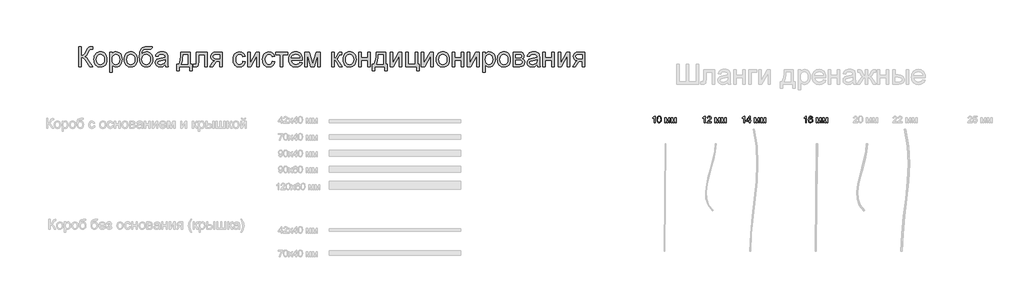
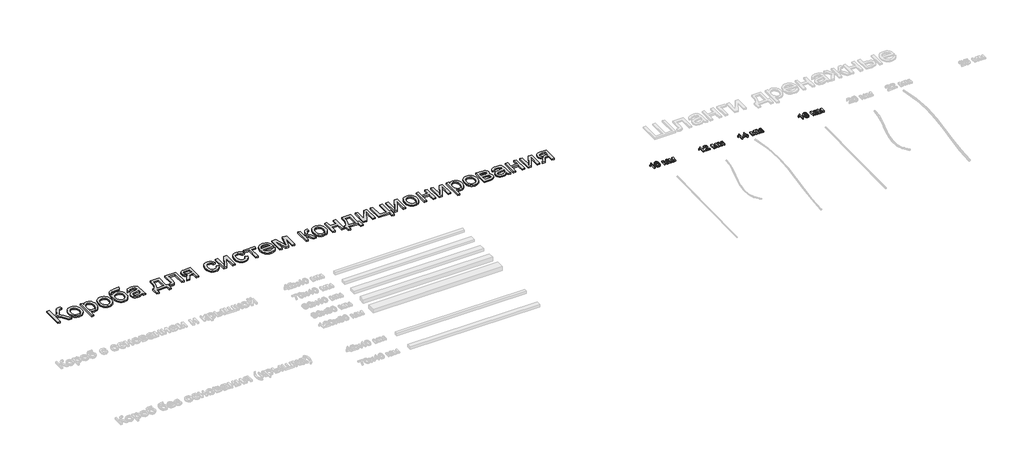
# One storey, part 9 of 21: 5 proxies.
"""IFC4 building model written with IfcOpenShell, lengths in millimetres."""

from ifc_helpers import new_model, si_unit, origin, origin_with_axes, place, context, project, spatial, polyline, outline, extrude, element, save

model = new_model("IFC4")

# Units and contexts
model_context = context("Model", 3, world=origin())
ifc_project = project(units=[si_unit("LENGTHUNIT", "METRE", prefix="MILLI")], contexts=[model_context])

# Site, building, storey
site = spatial("IfcSite", under=ifc_project)
building = spatial("IfcBuilding", under=site)
storey = spatial("IfcBuildingStorey", under=building, Name="Этаж 01", Elevation=0.0)

# Proxies
placement = place(None, origin())
element("IfcBuildingElementProxy", 1, Name="300 мм Arial", ObjectType="300 мм Arial", at=placement, inside=storey, context=model_context, shape_type="SweptSolid", body=[
    extrude(outline(polyline([(-2310.4947168, -1276.5124367), (-2272.8236005, -1276.5124367), (-2272.8236005, -1408.3613438), (-2247.3201812, -1405.8689433), (-2230.701112, -1398.3917417), (-2217.2642222, -1380.7977853), (-2201.3073406, -1347.9551202), (-2180.5220079, -1305.8326317), (-2170.4972235, -1294.4190928), (-2156.9775602, -1284.9737226), (-2140.9287082, -1278.6277582), (-2123.3163577, -1276.5124367), (-2098.5946876, -1276.9538951), (-2098.5946876, -1314.6250114), (-2106.9088207, -1314.4042822), (-2115.2229538, -1314.183553), (-2132.4766193, -1316.4460273), (-2144.6535134, -1323.2334501), (-2155.1381502, -1337.4888774), (-2167.0207387, -1362.0082124), (-2181.5980627, -1392.542418), (-2193.6921833, -1409.2442606), (-2219.7014404, -1424.8424572), (-2205.1103208, -1431.0504658), (-2190.6203687, -1441.8753936), (-2161.9439671, -1477.3760061), (-2098.5946876, -1577.8813672), (-2142.2990686, -1577.8813672), (-2195.8626871, -1492.9742027), (-2216.5468523, -1465.741738), (-2233.5705916, -1448.6444223), (-2250.980607, -1439.6221163), (-2272.8236005, -1436.614681), (-2272.8236005, -1577.8813672), (-2310.4947168, -1577.8813672), (-2310.4947168, -1276.5124367)])), origin_with_axes(), (0.0, 0.0, 1.0), 20.0),
    extrude(outline(polyline([(-2079.7591294, -1467.222463), (-2077.7219829, -1438.5598571), (-2071.6105432, -1413.8611796), (-2061.4248105, -1393.1264307), (-2047.1647847, -1376.3556102), (-2032.8081898, -1365.6364486), (-2016.9616728, -1357.9799046), (-1999.6252338, -1353.3859781), (-1980.7988727, -1351.8546693), (-1960.0158393, -1353.7193712), (-1941.2239671, -1359.3134768), (-1924.4232562, -1368.6369861), (-1909.6137067, -1381.6898991), (-1897.5264838, -1398.0307575), (-1888.8927533, -1417.2181028), (-1883.7125149, -1439.2519351), (-1881.9857688, -1464.1322543), (-1885.0391894, -1502.1896467), (-1894.1994511, -1531.1603538), (-1909.1998394, -1552.8561945), (-1929.77364, -1569.0889875), (-1954.2102015, -1579.2149394), (-1980.7988727, -1582.5902567), (-2001.8854088, -1580.7324526), (-2020.8520249, -1575.1590404), (-2037.6987211, -1565.87002), (-2052.4254972, -1552.8653915), (-2064.3839613, -1536.365884), (-2072.9257214, -1516.5922268), (-2078.0507774, -1493.5444198), (-2079.7591294, -1467.222463)]), holes=[polyline([(-2042.0880131, -1467.1488866), (-2037.7286115, -1501.2423505), (-2024.6504065, -1525.5317593), (-2004.9687198, -1540.0722951), (-1980.7988727, -1544.9191404), (-1956.7393902, -1540.044704), (-1937.0944917, -1525.4213947), (-1924.0162868, -1500.8100892), (-1919.6568851, -1465.9716642), (-1924.0438779, -1432.8714817), (-1937.2048563, -1408.9131668), (-1956.877346, -1394.3726309), (-1980.7988727, -1389.5257856), (-2004.9687198, -1394.3542368), (-2024.6504065, -1408.8395904), (-2037.7286115, -1433.0738168), (-2042.0880131, -1467.1488866)])]), origin_with_axes(), (0.0, 0.0, 1.0), 20.0),
    extrude(outline(polyline([(-1839.605763, -1662.6413789), (-1839.605763, -1356.5635589), (-1801.9346467, -1356.5635589), (-1801.9346467, -1393.4989112), (-1789.647388, -1375.2795554), (-1775.8886014, -1362.2657298), (-1759.8489464, -1354.4574345), (-1740.7190827, -1351.8546693), (-1715.2432545, -1355.4967011), (-1692.9679997, -1366.4227963), (-1674.8314173, -1383.9707675), (-1661.7716065, -1407.478427), (-1653.8805377, -1435.2351235), (-1651.2501814, -1465.5302058), (-1654.2208286, -1497.7474716), (-1663.1327699, -1526.5618288), (-1677.7008969, -1550.5109467), (-1697.640101, -1568.1324943), (-1720.862652, -1578.9758161), (-1745.2808194, -1582.5902567), (-1762.5988643, -1580.1714326), (-1778.0591052, -1572.9149602), (-1791.29366, -1561.9612738), (-1801.9346467, -1548.4508076), (-1801.9346467, -1662.6413789), (-1839.605763, -1662.6413789)]), holes=[polyline([(-1801.9346467, -1468.9882966), (-1797.8603536, -1502.7598638), (-1785.6374743, -1526.3778878), (-1767.6020595, -1540.2838273), (-1746.0901598, -1544.9191404), (-1724.2287722, -1540.1182804), (-1705.7335049, -1525.7157003), (-1693.1243495, -1501.2331535), (-1688.9212977, -1466.1923934), (-1693.023182, -1432.6047673), (-1705.3288347, -1408.6556494), (-1723.3366584, -1394.3082516), (-1744.5450554, -1389.5257856), (-1765.8362259, -1394.6117542), (-1784.5338283, -1409.86966), (-1797.5844421, -1434.8212563), (-1801.9346467, -1468.9882966)])]), origin_with_axes(), (0.0, 0.0, 1.0), 20.0),
    extrude(outline(polyline([(-1618.2879547, -1467.222463), (-1616.2508081, -1438.5598571), (-1610.1393685, -1413.8611796), (-1599.9536357, -1393.1264307), (-1585.6936099, -1376.3556102), (-1571.337015, -1365.6364486), (-1555.4904981, -1357.9799046), (-1538.1540591, -1353.3859781), (-1519.327698, -1351.8546693), (-1498.5446645, -1353.7193712), (-1479.7527923, -1359.3134768), (-1462.9520815, -1368.6369861), (-1448.1425319, -1381.6898991), (-1436.0553091, -1398.0307575), (-1427.4215785, -1417.2181028), (-1422.2413402, -1439.2519351), (-1420.5145941, -1464.1322543), (-1423.5680146, -1502.1896467), (-1432.7282763, -1531.1603538), (-1447.7286647, -1552.8561945), (-1468.3024652, -1569.0889875), (-1492.7390268, -1579.2149394), (-1519.327698, -1582.5902567), (-1540.4142341, -1580.7324526), (-1559.3808502, -1575.1590404), (-1576.2275463, -1565.87002), (-1590.9543224, -1552.8653915), (-1602.9127865, -1536.365884), (-1611.4545466, -1516.5922268), (-1616.5796027, -1493.5444198), (-1618.2879547, -1467.222463)]), holes=[polyline([(-1580.6168384, -1467.1488866), (-1576.2574367, -1501.2423505), (-1563.1792318, -1525.5317593), (-1543.4975451, -1540.0722951), (-1519.327698, -1544.9191404), (-1495.2682155, -1540.044704), (-1475.6233169, -1525.4213947), (-1462.545112, -1500.8100892), (-1458.1857104, -1465.9716642), (-1462.5727032, -1432.8714817), (-1475.7336815, -1408.9131668), (-1495.4061712, -1394.3726309), (-1519.327698, -1389.5257856), (-1543.4975451, -1394.3542368), (-1563.1792318, -1408.8395904), (-1576.2574367, -1433.0738168), (-1580.6168384, -1467.1488866)])]), origin_with_axes(), (0.0, 0.0, 1.0), 20.0),
    extrude(outline(polyline([(-1222.7412335, -1271.8035472), (-1189.7790067, -1271.8035472), (-1193.347462, -1289.7102033), (-1199.4910914, -1301.1973186), (-1208.0075596, -1307.9939385), (-1218.6945315, -1311.8291083), (-1264.8269337, -1314.183553), (-1303.1326465, -1316.3540568), (-1326.9622027, -1322.8655681), (-1341.21763, -1334.1595454), (-1350.800956, -1350.677447), (-1356.4387476, -1372.5480316), (-1358.8575717, -1399.9000579), (-1343.7100305, -1378.8572078), (-1326.2264387, -1363.8476224), (-1306.3884021, -1354.8529076), (-1284.1775267, -1351.8546693), (-1263.6543098, -1353.7607579), (-1244.9797001, -1359.4790237), (-1228.1536973, -1369.0094666), (-1213.1763016, -1382.3520867), (-1200.8798459, -1398.945864), (-1192.0966633, -1418.2297783), (-1186.8267537, -1440.2038297), (-1185.0701172, -1464.8680183), (-1188.5557991, -1500.8284833), (-1199.0128448, -1529.6888258), (-1214.2523564, -1552.1204305), (-1232.0854361, -1568.7946819), (-1254.6733906, -1579.141363), (-1284.1775267, -1582.5902567), (-1318.1790201, -1578.1480816), (-1343.6640453, -1564.8215563), (-1362.41683, -1544.5696525), (-1376.2216018, -1519.3513417), (-1384.7196759, -1481.3767228), (-1387.5523673, -1422.8558944), (-1385.7658404, -1383.1913175), (-1380.4062595, -1350.5762794), (-1371.4736248, -1325.01078), (-1358.9679363, -1306.4948193), (-1342.7558366, -1293.3775269), (-1322.7039686, -1284.0080324), (-1298.8123323, -1278.3863356), (-1271.0809276, -1276.5124367), (-1229.1423802, -1275.6663081), (-1222.7412335, -1271.8035472)]), holes=[polyline([(-1222.7412335, -1463.6907959), (-1226.8247236, -1434.0487041), (-1239.075194, -1410.3111184), (-1258.7568808, -1394.7221188), (-1285.1340198, -1389.5257856), (-1312.633199, -1395.0164244), (-1323.7202426, -1401.8797229), (-1333.0322556, -1411.4883408), (-1345.6690021, -1437.1389129), (-1349.881251, -1470.165519), (-1345.2275438, -1502.1804496), (-1331.266422, -1525.6789121), (-1310.4810893, -1540.1090833), (-1285.354749, -1544.9191404), (-1260.0996501, -1539.3549252), (-1240.1052636, -1522.6622797), (-1227.082241, -1496.7909784), (-1222.7412335, -1463.6907959)])]), origin_with_axes(), (0.0, 0.0, 1.0), 20.0),
    extrude(outline(polyline([(-996.7145356, -1549.6280299), (-1014.7131622, -1565.0606796), (-1033.2452177, -1575.1590404), (-1052.7337664, -1580.7324526), (-1073.6018726, -1582.5902567), (-1105.0833744, -1578.1204905), (-1128.3059253, -1564.7111917), (-1142.625732, -1544.3489233), (-1147.3990008, -1519.0202479), (-1145.5963791, -1503.4036573), (-1140.1885137, -1489.2218063), (-1131.8467895, -1477.0817005), (-1121.242591, -1467.590345), (-1094.8654519, -1455.22951), (-1062.2711072, -1449.5641273), (-1023.7538623, -1443.6044389), (-996.9352648, -1436.614681), (-996.7145356, -1428.2269715), (-999.3081037, -1411.4147644), (-1007.0888079, -1400.4150927), (-1024.4896263, -1392.2481124), (-1048.7330497, -1389.5257856), (-1071.1738514, -1391.3376045), (-1086.8456244, -1396.7730609), (-1097.5325964, -1406.8254365), (-1105.018995, -1422.4880124), (-1142.6901113, -1417.7791229), (-1136.1510088, -1397.1777311), (-1126.3929389, -1380.9909234), (-1112.5053936, -1368.6116942), (-1093.577865, -1359.4330384), (-1070.4288904, -1353.7492616), (-1043.8770074, -1351.8546693), (-1018.4103763, -1353.5285324), (-998.2228518, -1358.5501216), (-983.0017343, -1366.1008996), (-972.4343239, -1375.3623288), (-965.4261719, -1386.8126559), (-960.8828293, -1400.9301275), (-959.0434193, -1433.8923543), (-959.0434193, -1480.7605204), (-957.1304329, -1546.2067274), (-949.6256402, -1577.8813672), (-987.2967565, -1577.8813672), (-996.7145356, -1549.6280299)]), holes=[polyline([(-996.7145356, -1474.2857973), (-1057.4886412, -1485.837292), (-1089.899045, -1491.9441331), (-1104.5775366, -1501.876947), (-1109.7278845, -1516.3714976), (-1106.9227843, -1527.5735043), (-1098.5074837, -1536.7521601), (-1084.6659236, -1542.8773953), (-1065.5820451, -1544.9191404), (-1045.3485354, -1542.6658632), (-1027.4694704, -1535.9060315), (-1012.9749198, -1525.9456265), (-1002.8949531, -1514.0906292), (-998.4251869, -1501.876947), (-996.9352648, -1484.9543752), (-996.7145356, -1474.2857973)])]), origin_with_axes(), (0.0, 0.0, 1.0), 20.0),
    extrude(outline(polyline([(-756.5611692, -1356.5635589), (-615.294483, -1356.5635589), (-615.294483, -1540.2102509), (-587.0411458, -1540.2102509), (-587.0411458, -1639.0969312), (-624.7122621, -1639.0969312), (-624.7122621, -1577.8813672), (-780.1056169, -1577.8813672), (-780.1056169, -1639.0969312), (-817.7767332, -1639.0969312), (-817.7767332, -1540.2102509), (-794.2322855, -1540.2102509), (-777.1165757, -1509.2805721), (-765.1328197, -1468.3628972), (-758.2810175, -1417.4572261), (-756.5611692, -1356.5635589)]), holes=[polyline([(-723.5989424, -1394.2346752), (-726.6891512, -1440.3578803), (-732.4281103, -1480.0615447), (-740.8158198, -1513.3456682), (-751.8522796, -1540.2102509), (-652.9655993, -1540.2102509), (-652.9655993, -1394.2346752), (-723.5989424, -1394.2346752)])]), origin_with_axes(), (0.0, 0.0, 1.0), 20.0),
    extrude(outline(polyline([(-525.8255818, -1356.5635589), (-356.3055584, -1356.5635589), (-356.3055584, -1577.660638), (-393.9766747, -1577.660638), (-393.9766747, -1394.2346752), (-488.1544655, -1394.2346752), (-488.1544655, -1499.8168078), (-490.6928513, -1548.524384), (-495.447726, -1559.5516468), (-504.6355789, -1569.0889875), (-518.5783065, -1575.6832723), (-537.5978056, -1577.8813672), (-568.2055876, -1575.9683808), (-568.2055876, -1540.2102509), (-551.3565923, -1540.2102509), (-534.3236559, -1537.8925943), (-527.517839, -1530.5349544), (-525.8255818, -1497.6830922), (-525.8255818, -1356.5635589)])), origin_with_axes(), (0.0, 0.0, 1.0), 20.0),
    extrude(outline(polyline([(-130.2788606, -1356.5635589), (-130.2788606, -1577.8813672), (-167.9499769, -1577.8813672), (-167.9499769, -1493.1213555), (-188.4777922, -1493.1213555), (-216.4368239, -1497.9038214), (-227.6020424, -1508.333276), (-242.7035983, -1530.0567078), (-272.7227691, -1577.8813672), (-316.2799973, -1577.8813672), (-278.4617282, -1517.4015672), (-261.7598857, -1495.6965295), (-246.3824183, -1486.0580212), (-272.1341579, -1478.1669524), (-290.2339521, -1463.1757611), (-300.9393181, -1443.2365569), (-304.5077735, -1420.5014496), (-299.6333371, -1394.7129218), (-285.0100278, -1374.295471), (-261.1528804, -1360.9965369), (-228.5769297, -1356.5635589), (-130.2788606, -1356.5635589)]), holes=[polyline([(-167.9499769, -1394.2346752), (-217.6140462, -1394.2346752), (-243.2646184, -1396.414376), (-257.8235483, -1402.9534785), (-264.58338, -1412.4172428), (-266.8366572, -1423.3709292), (-263.5165222, -1437.7275241), (-253.5561172, -1447.6879291), (-235.1528204, -1453.5096617), (-206.50401, -1455.4502392), (-167.9499769, -1455.4502392), (-167.9499769, -1394.2346752)])]), origin_with_axes(), (0.0, 0.0, 1.0), 20.0),
    extrude(outline(polyline([(185.2167385, -1497.830245), (222.8878548, -1502.5391346), (212.3848238, -1536.0439873), (192.6479548, -1561.3634656), (165.5350517, -1577.2835589), (132.9039188, -1582.5902567), (111.7759959, -1580.7393504), (92.8323724, -1575.1866316), (76.0730483, -1565.9321001), (61.4980235, -1552.9757561), (49.7005078, -1536.5613213), (41.2737108, -1516.9325176), (36.2176326, -1494.089345), (34.5322733, -1468.0318034), (37.4109499, -1434.5085566), (46.0469797, -1405.455076), (60.5783185, -1381.9934018), (81.142922, -1365.245574), (105.7450305, -1355.2023955), (132.388884, -1351.8546693), (164.2198736, -1356.4531943), (189.6681106, -1370.2487691), (207.9242546, -1392.5056298), (218.1789652, -1422.4880124), (180.5078489, -1427.1969019), (173.6744409, -1410.7617738), (163.0334542, -1398.9803529), (149.1735, -1391.8894275), (132.6831896, -1389.5257856), (108.3385985, -1394.1794929), (89.0155967, -1408.1406146), (76.4064414, -1432.1633089), (72.2033896, -1467.0017338), (76.3144709, -1502.3092083), (88.6477147, -1526.414676), (107.6212286, -1540.2930243), (131.65312, -1544.9191404), (151.1600628, -1542.0312667), (167.1537325, -1533.3676458), (178.7880006, -1518.7075482), (185.2167385, -1497.830245)])), origin_with_axes(), (0.0, 0.0, 1.0), 20.0),
    extrude(outline(polyline([(255.8500816, -1356.5635589), (293.5211979, -1356.5635589), (293.5211979, -1525.3478183), (386.0803078, -1356.5635589), (434.787884, -1356.5635589), (434.787884, -1577.8813672), (397.1167677, -1577.8813672), (397.1167677, -1410.1271774), (305.1462689, -1577.8813672), (255.8500816, -1577.8813672), (255.8500816, -1356.5635589)])), origin_with_axes(), (0.0, 0.0, 1.0), 20.0),
    extrude(outline(polyline([(632.5612446, -1497.830245), (670.2323609, -1502.5391346), (659.72933, -1536.0439873), (639.9924609, -1561.3634656), (612.8795579, -1577.2835589), (580.2484249, -1582.5902567), (559.1205021, -1580.7393504), (540.1768786, -1575.1866316), (523.4175544, -1565.9321001), (508.8425296, -1552.9757561), (497.0450139, -1536.5613213), (488.618217, -1516.9325176), (483.5621388, -1494.089345), (481.8767794, -1468.0318034), (484.755456, -1434.5085566), (493.3914858, -1405.455076), (507.9228247, -1381.9934018), (528.4874282, -1365.245574), (553.0895366, -1355.2023955), (579.7333901, -1351.8546693), (611.5643797, -1356.4531943), (637.0126168, -1370.2487691), (655.2687608, -1392.5056298), (665.5234714, -1422.4880124), (627.8523551, -1427.1969019), (621.018947, -1410.7617738), (610.3779603, -1398.9803529), (596.5180061, -1391.8894275), (580.0276957, -1389.5257856), (555.6831047, -1394.1794929), (536.3601029, -1408.1406146), (523.7509475, -1432.1633089), (519.5478957, -1467.0017338), (523.658977, -1502.3092083), (535.9922209, -1526.414676), (554.9657348, -1540.2930243), (578.9976261, -1544.9191404), (598.5045689, -1542.0312667), (614.4982387, -1533.3676458), (626.1325068, -1518.7075482), (632.5612446, -1497.830245)])), origin_with_axes(), (0.0, 0.0, 1.0), 20.0),
    extrude(outline(polyline([(684.3590295, -1356.5635589), (863.296832, -1356.5635589), (863.296832, -1394.2346752), (792.6634889, -1394.2346752), (792.6634889, -1577.8813672), (754.9923726, -1577.8813672), (754.9923726, -1394.2346752), (684.3590295, -1394.2346752), (684.3590295, -1356.5635589)])), origin_with_axes(), (0.0, 0.0, 1.0), 20.0),
    extrude(outline(polyline([(1051.2109551, -1511.9569136), (1088.1463074, -1516.6658032), (1074.8381763, -1544.4960761), (1053.6021881, -1565.2998029), (1024.9165895, -1578.2676433), (989.2596271, -1582.5902567), (965.8853249, -1580.7255548), (945.0586054, -1575.1314493), (926.7794688, -1565.8079399), (911.047915, -1552.7550269), (898.3973729, -1536.3359936), (889.3612713, -1516.9141235), (883.9396104, -1494.4894167), (882.1323901, -1469.061873), (883.9580045, -1442.7721059), (889.4348477, -1419.6001387), (898.5629198, -1399.5459715), (911.3422206, -1382.6096041), (927.0323877, -1369.1543202), (944.8930585, -1359.543403), (964.9242332, -1353.7768528), (987.1259116, -1351.8546693), (1008.6125193, -1353.7722542), (1028.0435865, -1359.5250089), (1045.419113, -1369.1129334), (1060.7390988, -1382.5360277), (1073.2447874, -1399.4356069), (1082.1774221, -1419.452986), (1087.5370029, -1442.5881649), (1089.3235298, -1468.8411438), (1089.1028006, -1478.9946869), (919.8035065, -1478.9946869), (926.3242148, -1507.1928418), (941.471756, -1527.9229922), (963.3331435, -1540.6701034), (989.9953911, -1544.9191404), (1010.0449599, -1542.9509717), (1026.9307434, -1537.0464657), (1040.6527419, -1526.8377403), (1051.2109551, -1511.9569136)]), holes=[polyline([(919.8035065, -1441.3235706), (1051.6524135, -1441.3235706), (1046.5572479, -1421.4211546), (1036.5692517, -1407.1841214), (1014.6066966, -1393.9403696), (986.9787588, -1389.5257856), (961.5857041, -1393.0482557), (940.5888392, -1403.6156661), (925.993121, -1420.0875824), (919.8035065, -1441.3235706)])]), origin_with_axes(), (0.0, 0.0, 1.0), 20.0),
    extrude(outline(polyline([(1126.9946461, -1356.5635589), (1191.8154537, -1356.5635589), (1241.7738286, -1533.7355278), (1295.6317527, -1356.5635589), (1357.7302335, -1356.5635589), (1357.7302335, -1577.8813672), (1320.0591172, -1577.8813672), (1320.0591172, -1399.6793287), (1265.9068875, -1577.8813672), (1216.4635474, -1577.8813672), (1164.6657624, -1391.1444664), (1164.6657624, -1577.8813672), (1126.9946461, -1577.8813672), (1126.9946461, -1356.5635589)])), origin_with_axes(), (0.0, 0.0, 1.0), 20.0),
    extrude(outline(polyline([(1531.9591464, -1356.5635589), (1569.6302627, -1356.5635589), (1569.6302627, -1450.7413496), (1584.9525478, -1449.0490925), (1594.8669676, -1443.9723209), (1603.6409532, -1430.7285691), (1615.5419357, -1404.535371), (1632.7220249, -1370.5062865), (1647.8787631, -1359.4330384), (1675.4331245, -1356.5635589), (1682.6436116, -1356.5635589), (1682.6436116, -1394.4554044), (1672.4900686, -1394.2346752), (1654.0959688, -1398.2078007), (1641.1465226, -1423.0030472), (1625.9529962, -1449.8216447), (1604.6526287, -1462.9550319), (1616.5903994, -1468.2571311), (1628.4178056, -1477.6151294), (1651.7415241, -1508.4988229), (1692.0613907, -1577.8813672), (1649.2399265, -1577.8813672), (1609.7294002, -1509.9703509), (1589.8637725, -1481.238767), (1580.5747521, -1476.0240398), (1569.6302627, -1474.2857973), (1569.6302627, -1577.8813672), (1531.9591464, -1577.8813672), (1531.9591464, -1356.5635589)])), origin_with_axes(), (0.0, 0.0, 1.0), 20.0),
    extrude(outline(polyline([(1706.1880593, -1467.222463), (1708.2252059, -1438.5598571), (1714.3366455, -1413.8611796), (1724.5223783, -1393.1264307), (1738.7824041, -1376.3556102), (1753.138999, -1365.6364486), (1768.9855159, -1357.9799046), (1786.3219549, -1353.3859781), (1805.148316, -1351.8546693), (1825.9313495, -1353.7193712), (1844.7232217, -1359.3134768), (1861.5239325, -1368.6369861), (1876.3334821, -1381.6898991), (1888.4207049, -1398.0307575), (1897.0544355, -1417.2181028), (1902.2346738, -1439.2519351), (1903.9614199, -1464.1322543), (1900.9079994, -1502.1896467), (1891.7477377, -1531.1603538), (1876.7473494, -1552.8561945), (1856.1735488, -1569.0889875), (1831.7369872, -1579.2149394), (1805.148316, -1582.5902567), (1784.0617799, -1580.7324526), (1765.0951638, -1575.1590404), (1748.2484677, -1565.87002), (1733.5216916, -1552.8653915), (1721.5632275, -1536.365884), (1713.0214674, -1516.5922268), (1707.8964114, -1493.5444198), (1706.1880593, -1467.222463)]), holes=[polyline([(1743.8591756, -1467.1488866), (1748.2185773, -1501.2423505), (1761.2967822, -1525.5317593), (1780.978469, -1540.0722951), (1805.148316, -1544.9191404), (1829.2077985, -1540.044704), (1848.8526971, -1525.4213947), (1861.930902, -1500.8100892), (1866.2903036, -1465.9716642), (1861.9033108, -1432.8714817), (1848.7423325, -1408.9131668), (1829.0698428, -1394.3726309), (1805.148316, -1389.5257856), (1780.978469, -1394.3542368), (1761.2967822, -1408.8395904), (1748.2185773, -1433.0738168), (1743.8591756, -1467.1488866)])]), origin_with_axes(), (0.0, 0.0, 1.0), 20.0),
    extrude(outline(polyline([(1946.3414258, -1356.5635589), (1984.0125421, -1356.5635589), (1984.0125421, -1441.3235706), (2082.8992224, -1441.3235706), (2082.8992224, -1356.5635589), (2120.5703387, -1356.5635589), (2120.5703387, -1577.8813672), (2082.8992224, -1577.8813672), (2082.8992224, -1478.9946869), (1984.0125421, -1478.9946869), (1984.0125421, -1577.8813672), (1946.3414258, -1577.8813672), (1946.3414258, -1356.5635589)])), origin_with_axes(), (0.0, 0.0, 1.0), 20.0),
    extrude(outline(polyline([(2210.0392399, -1356.5635589), (2351.3059261, -1356.5635589), (2351.3059261, -1540.2102509), (2379.5592633, -1540.2102509), (2379.5592633, -1639.0969312), (2341.888147, -1639.0969312), (2341.888147, -1577.8813672), (2186.4947922, -1577.8813672), (2186.4947922, -1639.0969312), (2148.8236759, -1639.0969312), (2148.8236759, -1540.2102509), (2172.3681236, -1540.2102509), (2189.4838335, -1509.2805721), (2201.4675894, -1468.3628972), (2208.3193916, -1417.4572261), (2210.0392399, -1356.5635589)]), holes=[polyline([(2243.0014667, -1394.2346752), (2239.9112579, -1440.3578803), (2234.1722988, -1480.0615447), (2225.7845893, -1513.3456682), (2214.7481295, -1540.2102509), (2313.6348098, -1540.2102509), (2313.6348098, -1394.2346752), (2243.0014667, -1394.2346752)])]), origin_with_axes(), (0.0, 0.0, 1.0), 20.0),
    extrude(outline(polyline([(2421.9392692, -1356.5635589), (2459.6103855, -1356.5635589), (2459.6103855, -1525.3478183), (2552.1694954, -1356.5635589), (2600.8770716, -1356.5635589), (2600.8770716, -1577.8813672), (2563.2059553, -1577.8813672), (2563.2059553, -1410.1271774), (2471.2354565, -1577.8813672), (2421.9392692, -1577.8813672), (2421.9392692, -1356.5635589)])), origin_with_axes(), (0.0, 0.0, 1.0), 20.0),
    extrude(outline(polyline([(2657.3837461, -1356.5635589), (2695.0548624, -1356.5635589), (2695.0548624, -1540.2102509), (2803.3593218, -1540.2102509), (2803.3593218, -1356.5635589), (2841.0304381, -1356.5635589), (2841.0304381, -1540.2102509), (2864.5748858, -1540.2102509), (2864.5748858, -1639.0969312), (2826.9037694, -1639.0969312), (2826.9037694, -1577.8813672), (2657.3837461, -1577.8813672), (2657.3837461, -1356.5635589)])), origin_with_axes(), (0.0, 0.0, 1.0), 20.0),
    extrude(outline(polyline([(2897.5371125, -1356.5635589), (2935.2082288, -1356.5635589), (2935.2082288, -1525.3478183), (3027.7673388, -1356.5635589), (3076.474915, -1356.5635589), (3076.474915, -1577.8813672), (3038.8037987, -1577.8813672), (3038.8037987, -1410.1271774), (2946.8332999, -1577.8813672), (2897.5371125, -1577.8813672), (2897.5371125, -1356.5635589)])), origin_with_axes(), (0.0, 0.0, 1.0), 20.0),
    extrude(outline(polyline([(3123.5638104, -1467.222463), (3125.6009569, -1438.5598571), (3131.7123966, -1413.8611796), (3141.8981293, -1393.1264307), (3156.1581551, -1376.3556102), (3170.51475, -1365.6364486), (3186.3612669, -1357.9799046), (3203.697706, -1353.3859781), (3222.5240671, -1351.8546693), (3243.3071005, -1353.7193712), (3262.0989727, -1359.3134768), (3278.8996836, -1368.6369861), (3293.7092331, -1381.6898991), (3305.7964559, -1398.0307575), (3314.4301865, -1417.2181028), (3319.6104248, -1439.2519351), (3321.337171, -1464.1322543), (3318.2837504, -1502.1896467), (3309.1234887, -1531.1603538), (3294.1231004, -1552.8561945), (3273.5492998, -1569.0889875), (3249.1127383, -1579.2149394), (3222.5240671, -1582.5902567), (3201.4375309, -1580.7324526), (3182.4709148, -1575.1590404), (3165.6242187, -1565.87002), (3150.8974426, -1552.8653915), (3138.9389785, -1536.365884), (3130.3972184, -1516.5922268), (3125.2721624, -1493.5444198), (3123.5638104, -1467.222463)]), holes=[polyline([(3161.2349267, -1467.1488866), (3165.5943283, -1501.2423505), (3178.6725332, -1525.5317593), (3198.35422, -1540.0722951), (3222.5240671, -1544.9191404), (3246.5835495, -1540.044704), (3266.2284481, -1525.4213947), (3279.306653, -1500.8100892), (3283.6660547, -1465.9716642), (3279.2790619, -1432.8714817), (3266.1180835, -1408.9131668), (3246.4455938, -1394.3726309), (3222.5240671, -1389.5257856), (3198.35422, -1394.3542368), (3178.6725332, -1408.8395904), (3165.5943283, -1433.0738168), (3161.2349267, -1467.1488866)])]), origin_with_axes(), (0.0, 0.0, 1.0), 20.0),
    extrude(outline(polyline([(3363.7171768, -1356.5635589), (3401.3882931, -1356.5635589), (3401.3882931, -1441.3235706), (3500.2749734, -1441.3235706), (3500.2749734, -1356.5635589), (3537.9460897, -1356.5635589), (3537.9460897, -1577.8813672), (3500.2749734, -1577.8813672), (3500.2749734, -1478.9946869), (3401.3882931, -1478.9946869), (3401.3882931, -1577.8813672), (3363.7171768, -1577.8813672), (3363.7171768, -1356.5635589)])), origin_with_axes(), (0.0, 0.0, 1.0), 20.0),
    extrude(outline(polyline([(3594.4527642, -1356.5635589), (3632.1238805, -1356.5635589), (3632.1238805, -1525.3478183), (3724.6829905, -1356.5635589), (3773.3905666, -1356.5635589), (3773.3905666, -1577.8813672), (3735.7194503, -1577.8813672), (3735.7194503, -1410.1271774), (3643.7489515, -1577.8813672), (3594.4527642, -1577.8813672), (3594.4527642, -1356.5635589)])), origin_with_axes(), (0.0, 0.0, 1.0), 20.0),
    extrude(outline(polyline([(3829.8972411, -1662.6413789), (3829.8972411, -1356.5635589), (3867.5683574, -1356.5635589), (3867.5683574, -1393.4989112), (3879.855616, -1375.2795554), (3893.6144027, -1362.2657298), (3909.6540577, -1354.4574345), (3928.7839214, -1351.8546693), (3954.2597496, -1355.4967011), (3976.5350044, -1366.4227963), (3994.6715867, -1383.9707675), (4007.7313976, -1407.478427), (4015.6224664, -1435.2351235), (4018.2528226, -1465.5302058), (4015.2821755, -1497.7474716), (4006.3702342, -1526.5618288), (3991.8021072, -1550.5109467), (3971.862903, -1568.1324943), (3948.6403521, -1578.9758161), (3924.2221847, -1582.5902567), (3906.9041397, -1580.1714326), (3891.4438989, -1572.9149602), (3878.2093441, -1561.9612738), (3867.5683574, -1548.4508076), (3867.5683574, -1662.6413789), (3829.8972411, -1662.6413789)]), holes=[polyline([(3867.5683574, -1468.9882966), (3871.6426505, -1502.7598638), (3883.8655298, -1526.3778878), (3901.9009446, -1540.2838273), (3923.4128443, -1544.9191404), (3945.2742318, -1540.1182804), (3963.7694991, -1525.7157003), (3976.3786545, -1501.2331535), (3980.5817063, -1466.1923934), (3976.4798221, -1432.6047673), (3964.1741693, -1408.6556494), (3946.1663457, -1394.3082516), (3924.9579487, -1389.5257856), (3903.6667782, -1394.6117542), (3884.9691758, -1409.86966), (3871.918562, -1434.8212563), (3867.5683574, -1468.9882966)])]), origin_with_axes(), (0.0, 0.0, 1.0), 20.0),
    extrude(outline(polyline([(4051.2150494, -1467.222463), (4053.2521959, -1438.5598571), (4059.3636356, -1413.8611796), (4069.5493683, -1393.1264307), (4083.8093942, -1376.3556102), (4098.165989, -1365.6364486), (4114.012506, -1357.9799046), (4131.348945, -1353.3859781), (4150.1753061, -1351.8546693), (4170.9583396, -1353.7193712), (4189.7502117, -1359.3134768), (4206.5509226, -1368.6369861), (4221.3604722, -1381.6898991), (4233.447695, -1398.0307575), (4242.0814255, -1417.2181028), (4247.2616639, -1439.2519351), (4248.98841, -1464.1322543), (4245.9349894, -1502.1896467), (4236.7747278, -1531.1603538), (4221.7743394, -1552.8561945), (4201.2005388, -1569.0889875), (4176.7639773, -1579.2149394), (4150.1753061, -1582.5902567), (4129.08877, -1580.7324526), (4110.1221539, -1575.1590404), (4093.2754578, -1565.87002), (4078.5486816, -1552.8653915), (4066.5902175, -1536.365884), (4058.0484575, -1516.5922268), (4052.9234014, -1493.5444198), (4051.2150494, -1467.222463)]), holes=[polyline([(4088.8861657, -1467.1488866), (4093.2455673, -1501.2423505), (4106.3237723, -1525.5317593), (4126.005459, -1540.0722951), (4150.1753061, -1544.9191404), (4174.2347886, -1540.044704), (4193.8796871, -1525.4213947), (4206.9578921, -1500.8100892), (4211.3172937, -1465.9716642), (4206.9303009, -1432.8714817), (4193.7693225, -1408.9131668), (4174.0968328, -1394.3726309), (4150.1753061, -1389.5257856), (4126.005459, -1394.3542368), (4106.3237723, -1408.8395904), (4093.2455673, -1433.0738168), (4088.8861657, -1467.1488866)])]), origin_with_axes(), (0.0, 0.0, 1.0), 20.0),
    extrude(outline(polyline([(4291.3684158, -1356.5635589), (4374.362594, -1356.5635589), (4401.0432357, -1357.8235547), (4419.8695968, -1361.6035422), (4433.7203539, -1368.7404529), (4445.4741836, -1380.0712184), (4453.5032082, -1394.8324834), (4456.1795497, -1412.2608929), (4454.5608689, -1426.3047881), (4449.7048266, -1438.4173028), (4441.5930286, -1448.6536193), (4430.2070808, -1457.06892), (4444.1498084, -1464.8956094), (4455.5173621, -1477.4863707), (4463.0773371, -1493.8479224), (4465.5973288, -1512.9869832), (4459.2145761, -1541.7001729), (4444.0394438, -1561.9152886), (4420.0167496, -1573.8898475), (4387.091311, -1577.8813672), (4291.3684158, -1577.8813672), (4291.3684158, -1356.5635589)]), holes=[polyline([(4329.0395322, -1441.3235706), (4366.2691901, -1441.3235706), (4396.9873367, -1439.4105842), (4411.9233457, -1431.7586387), (4416.8621615, -1425.4310684), (4418.5084334, -1417.9262757), (4415.6205597, -1406.6874807), (4406.9569387, -1399.4585995), (4391.3035598, -1395.5406563), (4367.4464124, -1394.2346752), (4329.0395322, -1394.2346752), (4329.0395322, -1441.3235706)]), polyline([(4329.0395322, -1540.2102509), (4375.2455107, -1540.2102509), (4400.4270333, -1538.5087966), (4416.227565, -1533.404434), (4424.707245, -1524.1246106), (4427.9262125, -1509.8967745), (4426.3167287, -1500.4697983), (4421.4882775, -1491.7601921), (4414.0754553, -1484.9451781), (4404.7128586, -1481.2019788), (4371.5666908, -1478.9946869), (4329.0395322, -1478.9946869), (4329.0395322, -1540.2102509)])]), origin_with_axes(), (0.0, 0.0, 1.0), 20.0),
    extrude(outline(polyline([(4653.9529103, -1549.6280299), (4635.9542837, -1565.0606796), (4617.4222282, -1575.1590404), (4597.9336795, -1580.7324526), (4577.0655733, -1582.5902567), (4545.5840716, -1578.1204905), (4522.3615206, -1564.7111917), (4508.041714, -1544.3489233), (4503.2684451, -1519.0202479), (4505.0710668, -1503.4036573), (4510.4789322, -1489.2218063), (4518.8206564, -1477.0817005), (4529.4248549, -1467.590345), (4555.801994, -1455.22951), (4588.3963388, -1449.5641273), (4626.9135836, -1443.6044389), (4653.7321811, -1436.614681), (4653.9529103, -1428.2269715), (4651.3593422, -1411.4147644), (4643.578638, -1400.4150927), (4626.1778197, -1392.2481124), (4601.9343962, -1389.5257856), (4579.4935945, -1391.3376045), (4563.8218215, -1396.7730609), (4553.1348495, -1406.8254365), (4545.6484509, -1422.4880124), (4507.9773346, -1417.7791229), (4514.5164371, -1397.1777311), (4524.274507, -1380.9909234), (4538.1620523, -1368.6116942), (4557.089581, -1359.4330384), (4580.2385555, -1353.7492616), (4606.7904385, -1351.8546693), (4632.2570696, -1353.5285324), (4652.4445941, -1358.5501216), (4667.6657117, -1366.1008996), (4678.233122, -1375.3623288), (4685.241274, -1386.8126559), (4689.7846166, -1400.9301275), (4691.6240266, -1433.8923543), (4691.6240266, -1480.7605204), (4693.537013, -1546.2067274), (4701.0418057, -1577.8813672), (4663.3706894, -1577.8813672), (4653.9529103, -1549.6280299)]), holes=[polyline([(4653.9529103, -1474.2857973), (4593.1788047, -1485.837292), (4560.7684009, -1491.9441331), (4546.0899093, -1501.876947), (4540.9395614, -1516.3714976), (4543.7446616, -1527.5735043), (4552.1599622, -1536.7521601), (4566.0015223, -1542.8773953), (4585.0854008, -1544.9191404), (4605.3189105, -1542.6658632), (4623.1979755, -1535.9060315), (4637.6925261, -1525.9456265), (4647.7724928, -1514.0906292), (4652.242259, -1501.876947), (4653.7321811, -1484.9543752), (4653.9529103, -1474.2857973)])]), origin_with_axes(), (0.0, 0.0, 1.0), 20.0),
    extrude(outline(polyline([(4743.4218115, -1356.5635589), (4781.0929278, -1356.5635589), (4781.0929278, -1441.3235706), (4879.9796081, -1441.3235706), (4879.9796081, -1356.5635589), (4917.6507244, -1356.5635589), (4917.6507244, -1577.8813672), (4879.9796081, -1577.8813672), (4879.9796081, -1478.9946869), (4781.0929278, -1478.9946869), (4781.0929278, -1577.8813672), (4743.4218115, -1577.8813672), (4743.4218115, -1356.5635589)])), origin_with_axes(), (0.0, 0.0, 1.0), 20.0),
    extrude(outline(polyline([(4974.1573989, -1356.5635589), (5011.8285152, -1356.5635589), (5011.8285152, -1525.3478183), (5104.3876252, -1356.5635589), (5153.0952013, -1356.5635589), (5153.0952013, -1577.8813672), (5115.424085, -1577.8813672), (5115.424085, -1410.1271774), (5023.4535862, -1577.8813672), (4974.1573989, -1577.8813672), (4974.1573989, -1356.5635589)])), origin_with_axes(), (0.0, 0.0, 1.0), 20.0),
    extrude(outline(polyline([(5379.1218992, -1356.5635589), (5379.1218992, -1577.8813672), (5341.4507829, -1577.8813672), (5341.4507829, -1493.1213555), (5320.9229675, -1493.1213555), (5292.9639359, -1497.9038214), (5281.7987174, -1508.333276), (5266.6971615, -1530.0567078), (5236.6779907, -1577.8813672), (5193.1207624, -1577.8813672), (5230.9390315, -1517.4015672), (5247.6408741, -1495.6965295), (5263.0183415, -1486.0580212), (5237.2666018, -1478.1669524), (5219.1668077, -1463.1757611), (5208.4614416, -1443.2365569), (5204.8929863, -1420.5014496), (5209.7674227, -1394.7129218), (5224.390732, -1374.295471), (5248.2478794, -1360.9965369), (5280.8238301, -1356.5635589), (5379.1218992, -1356.5635589)]), holes=[polyline([(5341.4507829, -1394.2346752), (5291.7867135, -1394.2346752), (5266.1361414, -1396.414376), (5251.5772115, -1402.9534785), (5244.8173798, -1412.4172428), (5242.5641026, -1423.3709292), (5245.8842376, -1437.7275241), (5255.8446426, -1447.6879291), (5274.2479394, -1453.5096617), (5302.8967498, -1455.4502392), (5341.4507829, -1455.4502392), (5341.4507829, -1394.2346752)])]), origin_with_axes(), (0.0, 0.0, 1.0), 20.0),
])
element("IfcBuildingElementProxy", 2, Name="100 мм Arial", ObjectType="100 мм Arial", at=placement, inside=storey, context=model_context, shape_type="SweptSolid", body=[
    extrude(outline(polyline([(6447.4085521, -2428.2119691), (6434.8515133, -2428.2119691), (6434.8515133, -2349.9266806), (6422.9566622, -2358.4002292), (6409.7374358, -2364.7400622), (6409.7374358, -2352.8697365), (6428.1437983, -2341.1220381), (6439.3151482, -2327.755659), (6447.4085521, -2327.755659), (6447.4085521, -2428.2119691)])), origin_with_axes(), (0.0, 0.0, 1.0), 20.0),
    extrude(outline(polyline([(6477.2315192, -2378.7931544), (6480.9226019, -2349.8898924), (6491.8854853, -2333.224838), (6510.1937459, -2327.755659), (6524.8599748, -2330.9930205), (6534.9889924, -2340.3249605), (6540.8751043, -2355.1873931), (6543.1559727, -2378.7931544), (6539.5016782, -2407.5737892), (6528.575583, -2424.2756318), (6520.3442233, -2428.4051072), (6510.1937459, -2429.781599), (6497.1461978, -2427.390366), (6487.2379094, -2420.2166671), (6479.7331167, -2403.2266503), (6477.2315192, -2378.7931544)]), holes=[polyline([(6489.7885579, -2378.768629), (6491.2600859, -2398.5208264), (6495.6746699, -2409.9527594), (6502.2474948, -2415.40661), (6510.1937459, -2417.2245602), (6518.139997, -2415.4004786), (6524.712822, -2409.928234), (6529.127406, -2398.4901696), (6530.5989339, -2378.768629), (6529.1764569, -2359.4609556), (6524.9090258, -2347.9401178), (6518.3484635, -2342.2195528), (6510.0465931, -2340.3126977), (6502.1861812, -2341.9926922), (6495.8708736, -2347.0326755), (6491.3091369, -2359.2708832), (6489.7885579, -2378.768629)])]), origin_with_axes(), (0.0, 0.0, 1.0), 20.0),
    extrude(outline(polyline([(6596.5233875, -2354.4393664), (6618.1303233, -2354.4393664), (6634.783115, -2413.4966893), (6652.7357563, -2354.4393664), (6673.4352499, -2354.4393664), (6673.4352499, -2428.2119691), (6660.8782112, -2428.2119691), (6660.8782112, -2368.8112896), (6642.8274679, -2428.2119691), (6626.3463546, -2428.2119691), (6609.0804262, -2365.9663355), (6609.0804262, -2428.2119691), (6596.5233875, -2428.2119691), (6596.5233875, -2354.4393664)])), origin_with_axes(), (0.0, 0.0, 1.0), 20.0),
    extrude(outline(polyline([(6692.2708081, -2354.4393664), (6713.8777439, -2354.4393664), (6730.5305356, -2413.4966893), (6748.483177, -2354.4393664), (6769.1826705, -2354.4393664), (6769.1826705, -2428.2119691), (6756.6256318, -2428.2119691), (6756.6256318, -2368.8112896), (6738.5748885, -2428.2119691), (6722.0937752, -2428.2119691), (6704.8278469, -2365.9663355), (6704.8278469, -2428.2119691), (6692.2708081, -2428.2119691), (6692.2708081, -2354.4393664)])), origin_with_axes(), (0.0, 0.0, 1.0), 20.0),
])
element("IfcBuildingElementProxy", 3, Name="100 мм Arial", ObjectType="100 мм Arial", at=placement, inside=storey, context=model_context, shape_type="SweptSolid", body=[
    extrude(outline(polyline([(7207.4085521, -2428.2119691), (7194.8515133, -2428.2119691), (7194.8515133, -2349.9266806), (7182.9566622, -2358.4002292), (7169.7374358, -2364.7400622), (7169.7374358, -2352.8697365), (7188.1437983, -2341.1220381), (7199.3151482, -2327.755659), (7207.4085521, -2327.755659), (7207.4085521, -2428.2119691)])), origin_with_axes(), (0.0, 0.0, 1.0), 20.0),
    extrude(outline(polyline([(7301.5863429, -2415.6549304), (7301.5863429, -2428.2119691), (7235.6618893, -2428.2119691), (7237.01079, -2419.5544795), (7244.63821, -2406.2248886), (7260.3590339, -2391.6690243), (7282.0395462, -2370.7488015), (7287.4596743, -2356.524031), (7282.3461145, -2345.0093246), (7268.9919981, -2340.3126977), (7255.0737959, -2344.89896), (7249.7885579, -2357.5786261), (7237.2315192, -2356.0089962), (7240.2757427, -2343.862759), (7246.8577647, -2334.9906716), (7256.6342287, -2329.5644121), (7269.2617782, -2327.755659), (7281.9812982, -2329.7667472), (7291.7393681, -2335.8000119), (7297.9473768, -2344.8131208), (7300.016713, -2355.7637415), (7297.7848956, -2367.6708555), (7290.365942, -2379.9826396), (7272.3765124, -2397.1872542), (7257.9310128, -2409.2660464), (7252.26563, -2415.6549304), (7301.5863429, -2415.6549304)])), origin_with_axes(), (0.0, 0.0, 1.0), 20.0),
    extrude(outline(polyline([(7356.5233875, -2354.4393664), (7378.1303233, -2354.4393664), (7394.783115, -2413.4966893), (7412.7357563, -2354.4393664), (7433.4352499, -2354.4393664), (7433.4352499, -2428.2119691), (7420.8782112, -2428.2119691), (7420.8782112, -2368.8112896), (7402.8274679, -2428.2119691), (7386.3463546, -2428.2119691), (7369.0804262, -2365.9663355), (7369.0804262, -2428.2119691), (7356.5233875, -2428.2119691), (7356.5233875, -2354.4393664)])), origin_with_axes(), (0.0, 0.0, 1.0), 20.0),
    extrude(outline(polyline([(7452.2708081, -2354.4393664), (7473.8777439, -2354.4393664), (7490.5305356, -2413.4966893), (7508.483177, -2354.4393664), (7529.1826705, -2354.4393664), (7529.1826705, -2428.2119691), (7516.6256318, -2428.2119691), (7516.6256318, -2368.8112896), (7498.5748885, -2428.2119691), (7482.0937752, -2428.2119691), (7464.8278469, -2365.9663355), (7464.8278469, -2428.2119691), (7452.2708081, -2428.2119691), (7452.2708081, -2354.4393664)])), origin_with_axes(), (0.0, 0.0, 1.0), 20.0),
])
element("IfcBuildingElementProxy", 4, Name="100 мм Arial", ObjectType="100 мм Arial", at=placement, inside=storey, context=model_context, shape_type="SweptSolid", body=[
    extrude(outline(polyline([(7807.4085521, -2428.2119691), (7794.8515133, -2428.2119691), (7794.8515133, -2349.9266806), (7782.9566622, -2358.4002292), (7769.7374358, -2364.7400622), (7769.7374358, -2352.8697365), (7788.1437983, -2341.1220381), (7799.3151482, -2327.755659), (7807.4085521, -2327.755659), (7807.4085521, -2428.2119691)])), origin_with_axes(), (0.0, 0.0, 1.0), 20.0),
    extrude(outline(polyline([(7878.0418952, -2428.2119691), (7878.0418952, -2404.6675214), (7832.5226296, -2404.6675214), (7832.5226296, -2392.1104827), (7881.1811549, -2329.3252888), (7890.5989339, -2329.3252888), (7890.5989339, -2392.1104827), (7903.1559727, -2392.1104827), (7903.1559727, -2404.6675214), (7890.5989339, -2404.6675214), (7890.5989339, -2428.2119691), (7878.0418952, -2428.2119691)]), holes=[polyline([(7878.0418952, -2392.1104827), (7878.0418952, -2353.3111949), (7847.9736734, -2392.1104827), (7878.0418952, -2392.1104827)])]), origin_with_axes(), (0.0, 0.0, 1.0), 20.0),
    extrude(outline(polyline([(7956.5233875, -2354.4393664), (7978.1303233, -2354.4393664), (7994.783115, -2413.4966893), (8012.7357563, -2354.4393664), (8033.4352499, -2354.4393664), (8033.4352499, -2428.2119691), (8020.8782112, -2428.2119691), (8020.8782112, -2368.8112896), (8002.8274679, -2428.2119691), (7986.3463546, -2428.2119691), (7969.0804262, -2365.9663355), (7969.0804262, -2428.2119691), (7956.5233875, -2428.2119691), (7956.5233875, -2354.4393664)])), origin_with_axes(), (0.0, 0.0, 1.0), 20.0),
    extrude(outline(polyline([(8052.2708081, -2354.4393664), (8073.8777439, -2354.4393664), (8090.5305356, -2413.4966893), (8108.483177, -2354.4393664), (8129.1826705, -2354.4393664), (8129.1826705, -2428.2119691), (8116.6256318, -2428.2119691), (8116.6256318, -2368.8112896), (8098.5748885, -2428.2119691), (8082.0937752, -2428.2119691), (8064.8278469, -2365.9663355), (8064.8278469, -2428.2119691), (8052.2708081, -2428.2119691), (8052.2708081, -2354.4393664)])), origin_with_axes(), (0.0, 0.0, 1.0), 20.0),
])
element("IfcBuildingElementProxy", 5, Name="100 мм Arial", ObjectType="100 мм Arial", at=placement, inside=storey, context=model_context, shape_type="SweptSolid", body=[
    extrude(outline(polyline([(8747.4085521, -2428.2119691), (8734.8515133, -2428.2119691), (8734.8515133, -2349.9266806), (8722.9566622, -2358.4002292), (8709.7374358, -2364.7400622), (8709.7374358, -2352.8697365), (8728.1437983, -2341.1220381), (8739.3151482, -2327.755659), (8747.4085521, -2327.755659), (8747.4085521, -2428.2119691)])), origin_with_axes(), (0.0, 0.0, 1.0), 20.0),
    extrude(outline(polyline([(8841.5863429, -2354.4393664), (8829.0293041, -2356.0089962), (8824.2713636, -2345.5366221), (8811.6897994, -2340.3126977), (8800.3590339, -2343.3538556), (8791.7873835, -2354.7704602), (8788.2189281, -2377.1499482), (8799.2921762, -2367.1312952), (8813.0141746, -2363.8571454), (8824.6147202, -2366.0950942), (8834.3513303, -2372.8089407), (8840.9548121, -2383.066717), (8843.1559727, -2395.9364554), (8839.0111689, -2413.2636974), (8827.606827, -2425.5264306), (8811.1502391, -2429.781599), (8796.9040089, -2426.9611703), (8785.557915, -2418.4998845), (8778.1358957, -2403.5638755), (8775.6618893, -2381.3192775), (8778.4087416, -2356.3094332), (8786.6492983, -2339.2090518), (8797.9003559, -2330.6190072), (8812.4746143, -2327.755659), (8823.4926801, -2329.5276239), (8832.3157166, -2334.8435188), (8838.4961341, -2343.2864105), (8841.5863429, -2354.4393664)]), holes=[polyline([(8788.2189281, -2395.7402517), (8791.1251959, -2406.617296), (8798.8507178, -2414.5144962), (8810.1692205, -2417.2245602), (8818.4557624, -2415.8204773), (8824.9703394, -2411.6082284), (8829.1917853, -2404.9863525), (8830.5989339, -2396.3533883), (8829.2101794, -2388.0668464), (8825.0439158, -2381.7484731), (8818.4189742, -2377.7477564), (8809.6541857, -2376.4141842), (8794.4606593, -2381.7484731), (8789.7793609, -2387.9135622), (8788.2189281, -2395.7402517)])]), origin_with_axes(), (0.0, 0.0, 1.0), 20.0),
    extrude(outline(polyline([(8896.5233875, -2354.4393664), (8918.1303233, -2354.4393664), (8934.783115, -2413.4966893), (8952.7357563, -2354.4393664), (8973.4352499, -2354.4393664), (8973.4352499, -2428.2119691), (8960.8782112, -2428.2119691), (8960.8782112, -2368.8112896), (8942.8274679, -2428.2119691), (8926.3463546, -2428.2119691), (8909.0804262, -2365.9663355), (8909.0804262, -2428.2119691), (8896.5233875, -2428.2119691), (8896.5233875, -2354.4393664)])), origin_with_axes(), (0.0, 0.0, 1.0), 20.0),
    extrude(outline(polyline([(8992.2708081, -2354.4393664), (9013.8777439, -2354.4393664), (9030.5305356, -2413.4966893), (9048.483177, -2354.4393664), (9069.1826705, -2354.4393664), (9069.1826705, -2428.2119691), (9056.6256318, -2428.2119691), (9056.6256318, -2368.8112896), (9038.5748885, -2428.2119691), (9022.0937752, -2428.2119691), (9004.8278469, -2365.9663355), (9004.8278469, -2428.2119691), (8992.2708081, -2428.2119691), (8992.2708081, -2354.4393664)])), origin_with_axes(), (0.0, 0.0, 1.0), 20.0),
])

save(model, "model.ifc")
